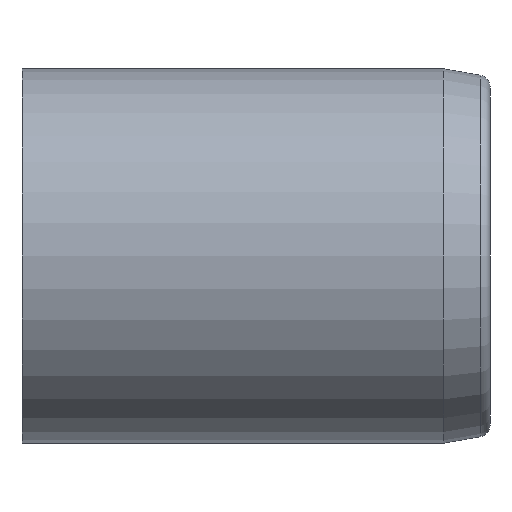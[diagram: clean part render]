
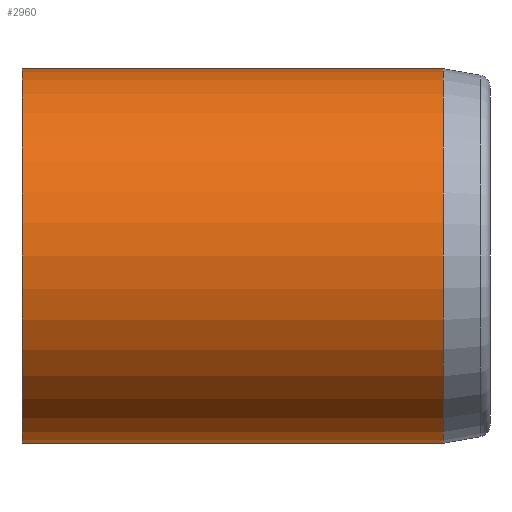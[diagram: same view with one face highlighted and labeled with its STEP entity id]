
A CAD part, left-side view. The second image highlights one B-rep face of the part: STEP entity #2960.
In plain terms, the highlighted cylindrical face has radius 8 mm (diameter 16 mm), a partial arc.
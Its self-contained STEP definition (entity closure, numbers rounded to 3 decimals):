
#555 = CARTESIAN_POINT ( 'NONE',  ( 0., 0., -8. ) ) ;
#585 = ORIENTED_EDGE ( 'NONE', *, *, #2798, .F. ) ;
#592 = ORIENTED_EDGE ( 'NONE', *, *, #2861, .T. ) ;
#621 = ORIENTED_EDGE ( 'NONE', *, *, #2842, .T. ) ;
#640 = ORIENTED_EDGE ( 'NONE', *, *, #2840, .F. ) ;
#760 = CARTESIAN_POINT ( 'NONE',  ( 0., -18., 8. ) ) ;
#769 = EDGE_LOOP ( 'NONE', ( #585, #621, #592, #640 ) ) ;
#1285 = VERTEX_POINT ( 'NONE', #760 ) ;
#1297 = VERTEX_POINT ( 'NONE', #555 ) ;
#2336 = CIRCLE ( 'NONE', #2355, 8. ) ;
#2355 = AXIS2_PLACEMENT_3D ( 'NONE', #3884, #3890, #3891 ) ;
#2366 = VECTOR ( 'NONE', #3979, 1000. ) ;
#2375 = CIRCLE ( 'NONE', #2377, 8. ) ;
#2377 = AXIS2_PLACEMENT_3D ( 'NONE', #3906, #3901, #3898 ) ;
#2503 = VECTOR ( 'NONE', #3762, 1000. ) ;
#2798 = EDGE_CURVE ( 'NONE', #4088, #1297, #3791, .T. ) ;
#2840 = EDGE_CURVE ( 'NONE', #1297, #4122, #2375, .T. ) ;
#2842 = EDGE_CURVE ( 'NONE', #4088, #1285, #2336, .T. ) ;
#2861 = EDGE_CURVE ( 'NONE', #1285, #4122, #3934, .T. ) ;
#2960 = ADVANCED_FACE ( 'NONE', ( #4558 ), #4570, .T. ) ;
#3010 = AXIS2_PLACEMENT_3D ( 'NONE', #4589, #4599, #4564 ) ;
#3762 = DIRECTION ( 'NONE',  ( 0., 1., 0. ) ) ;
#3791 = LINE ( 'NONE', #3794, #2503 ) ;
#3794 = CARTESIAN_POINT ( 'NONE',  ( 0., 0., -8. ) ) ;
#3884 = CARTESIAN_POINT ( 'NONE',  ( 0., -18., 0. ) ) ;
#3890 = DIRECTION ( 'NONE',  ( 0., 1., 0. ) ) ;
#3891 = DIRECTION ( 'NONE',  ( 0., 0., 1. ) ) ;
#3898 = DIRECTION ( 'NONE',  ( 0., 0., 1. ) ) ;
#3901 = DIRECTION ( 'NONE',  ( 0., 1., 0. ) ) ;
#3906 = CARTESIAN_POINT ( 'NONE',  ( 0., 0., 0. ) ) ;
#3934 = LINE ( 'NONE', #3949, #2366 ) ;
#3949 = CARTESIAN_POINT ( 'NONE',  ( 0., 0., 8. ) ) ;
#3979 = DIRECTION ( 'NONE',  ( 0., 1., 0. ) ) ;
#4088 = VERTEX_POINT ( 'NONE', #4250 ) ;
#4122 = VERTEX_POINT ( 'NONE', #4297 ) ;
#4250 = CARTESIAN_POINT ( 'NONE',  ( 0., -18., -8. ) ) ;
#4297 = CARTESIAN_POINT ( 'NONE',  ( 0., 0., 8. ) ) ;
#4558 = FACE_OUTER_BOUND ( 'NONE', #769, .T. ) ;
#4564 = DIRECTION ( 'NONE',  ( 0., 0., 1. ) ) ;
#4570 = CYLINDRICAL_SURFACE ( 'NONE', #3010, 8. ) ;
#4589 = CARTESIAN_POINT ( 'NONE',  ( 0., 0., 0. ) ) ;
#4599 = DIRECTION ( 'NONE',  ( 0., 1., 0. ) ) ;
